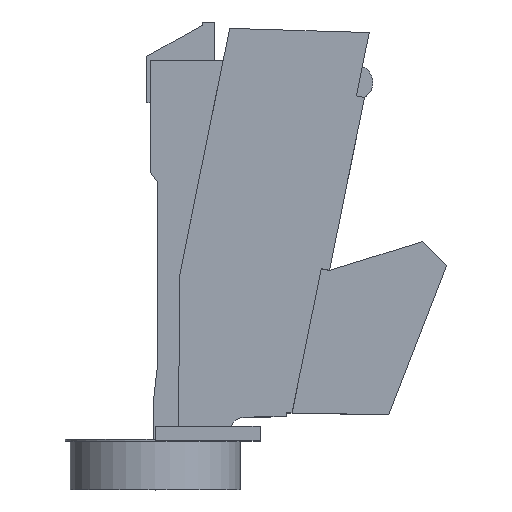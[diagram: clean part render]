
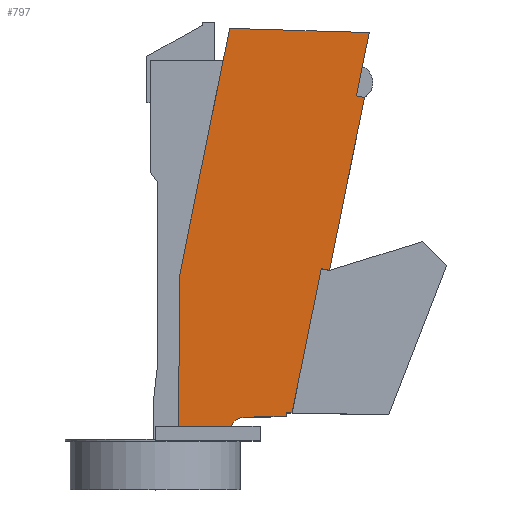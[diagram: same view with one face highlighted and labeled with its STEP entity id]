
A CAD part, top view. The second image highlights one B-rep face of the part: STEP entity #797.
In plain terms, the highlighted planar face has unit normal (0, 0, 1).
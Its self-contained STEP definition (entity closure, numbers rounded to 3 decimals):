
#191 = ORIENTED_EDGE ( 'NONE', *, *, #1035, .T. ) ;
#192 = ORIENTED_EDGE ( 'NONE', *, *, #1017, .T. ) ;
#201 = ORIENTED_EDGE ( 'NONE', *, *, #1026, .T. ) ;
#208 = ORIENTED_EDGE ( 'NONE', *, *, #1030, .T. ) ;
#209 = ORIENTED_EDGE ( 'NONE', *, *, #1032, .T. ) ;
#285 = ORIENTED_EDGE ( 'NONE', *, *, #1036, .T. ) ;
#286 = ORIENTED_EDGE ( 'NONE', *, *, #1041, .T. ) ;
#295 = ORIENTED_EDGE ( 'NONE', *, *, #1084, .T. ) ;
#300 = ORIENTED_EDGE ( 'NONE', *, *, #1047, .T. ) ;
#301 = ORIENTED_EDGE ( 'NONE', *, *, #1028, .T. ) ;
#302 = ORIENTED_EDGE ( 'NONE', *, *, #1113, .T. ) ;
#303 = ORIENTED_EDGE ( 'NONE', *, *, #1038, .F. ) ;
#304 = ORIENTED_EDGE ( 'NONE', *, *, #1100, .F. ) ;
#370 = EDGE_LOOP ( 'NONE', ( #209, #208, #192, #191, #201, #295, #285, #286, #304, #303, #302, #301, #300 ) ) ;
#422 = FACE_OUTER_BOUND ( 'NONE', #370, .T. ) ;
#510 = LINE ( 'NONE', #1152, #518 ) ;
#512 = LINE ( 'NONE', #1157, #532 ) ;
#513 = CIRCLE ( 'NONE', #978, 3. ) ;
#518 = VECTOR ( 'NONE', #1159, 1000. ) ;
#520 = LINE ( 'NONE', #1161, #521 ) ;
#521 = VECTOR ( 'NONE', #1163, 1000. ) ;
#522 = LINE ( 'NONE', #1166, #523 ) ;
#523 = VECTOR ( 'NONE', #1167, 1000. ) ;
#524 = LINE ( 'NONE', #1170, #525 ) ;
#525 = VECTOR ( 'NONE', #1171, 1000. ) ;
#526 = LINE ( 'NONE', #1174, #527 ) ;
#527 = VECTOR ( 'NONE', #1176, 1000. ) ;
#528 = LINE ( 'NONE', #1178, #529 ) ;
#529 = VECTOR ( 'NONE', #1180, 1000. ) ;
#530 = LINE ( 'NONE', #1182, #531 ) ;
#531 = VECTOR ( 'NONE', #1184, 1000. ) ;
#532 = VECTOR ( 'NONE', #1188, 1000. ) ;
#538 = LINE ( 'NONE', #1199, #539 ) ;
#539 = VECTOR ( 'NONE', #1200, 1000. ) ;
#569 = LINE ( 'NONE', #1274, #575 ) ;
#575 = VECTOR ( 'NONE', #1282, 1000. ) ;
#585 = LINE ( 'NONE', #1313, #588 ) ;
#588 = VECTOR ( 'NONE', #1319, 1000. ) ;
#589 = LINE ( 'NONE', #1342, #602 ) ;
#602 = VECTOR ( 'NONE', #1349, 1000. ) ;
#797 = ADVANCED_FACE ( 'NONE', ( #422 ), #1871, .F. ) ;
#978 = AXIS2_PLACEMENT_3D ( 'NONE', #1137, #1139, #1141 ) ;
#1017 = EDGE_CURVE ( 'NONE', #1810, #1781, #513, .T. ) ;
#1026 = EDGE_CURVE ( 'NONE', #1809, #1799, #510, .T. ) ;
#1028 = EDGE_CURVE ( 'NONE', #1817, #1803, #520, .T. ) ;
#1030 = EDGE_CURVE ( 'NONE', #1785, #1810, #522, .T. ) ;
#1032 = EDGE_CURVE ( 'NONE', #1788, #1785, #524, .T. ) ;
#1035 = EDGE_CURVE ( 'NONE', #1781, #1809, #526, .T. ) ;
#1036 = EDGE_CURVE ( 'NONE', #1833, #1792, #528, .T. ) ;
#1038 = EDGE_CURVE ( 'NONE', #1823, #1832, #530, .T. ) ;
#1041 = EDGE_CURVE ( 'NONE', #1792, #1841, #512, .T. ) ;
#1047 = EDGE_CURVE ( 'NONE', #1803, #1788, #538, .T. ) ;
#1084 = EDGE_CURVE ( 'NONE', #1799, #1833, #569, .T. ) ;
#1100 = EDGE_CURVE ( 'NONE', #1832, #1841, #585, .T. ) ;
#1113 = EDGE_CURVE ( 'NONE', #1823, #1817, #589, .T. ) ;
#1137 = CARTESIAN_POINT ( 'NONE',  ( 23.835, 1.92, 12.1 ) ) ;
#1139 = DIRECTION ( 'NONE',  ( 0., 0., -1. ) ) ;
#1141 = DIRECTION ( 'NONE',  ( -1., 0., 0. ) ) ;
#1152 = CARTESIAN_POINT ( 'NONE',  ( 32.38, 5.02, 12.1 ) ) ;
#1157 = CARTESIAN_POINT ( 'NONE',  ( 3.759, 42.665, 12.1 ) ) ;
#1159 = DIRECTION ( 'NONE',  ( 0., 1., 0. ) ) ;
#1161 = CARTESIAN_POINT ( 'NONE',  ( 49.433, 83.91, 12.1 ) ) ;
#1163 = DIRECTION ( 'NONE',  ( -1., 0.03, 0. ) ) ;
#1166 = CARTESIAN_POINT ( 'NONE',  ( 23.835, 3., 12.1 ) ) ;
#1167 = DIRECTION ( 'NONE',  ( 1., 0., 0. ) ) ;
#1170 = CARTESIAN_POINT ( 'NONE',  ( 10.52, 34.28, 12.1 ) ) ;
#1171 = DIRECTION ( 'NONE',  ( -0.009, -1., 0. ) ) ;
#1174 = CARTESIAN_POINT ( 'NONE',  ( 23.8, 4.92, 12.1 ) ) ;
#1176 = DIRECTION ( 'NONE',  ( 1., 0.012, 0. ) ) ;
#1178 = CARTESIAN_POINT ( 'NONE',  ( 48.023, 76.962, 12.1 ) ) ;
#1180 = DIRECTION ( 'NONE',  ( 0.199, 0.98, 0. ) ) ;
#1182 = CARTESIAN_POINT ( 'NONE',  ( 10.961, 78.159, 12.1 ) ) ;
#1184 = DIRECTION ( 'NONE',  ( 0.98, -0.199, 0. ) ) ;
#1188 = DIRECTION ( 'NONE',  ( 0.98, -0.199, 0. ) ) ;
#1199 = CARTESIAN_POINT ( 'NONE',  ( 20.765, 84.771, 12.1 ) ) ;
#1200 = DIRECTION ( 'NONE',  ( -0.199, -0.98, 0. ) ) ;
#1274 = CARTESIAN_POINT ( 'NONE',  ( 32.38, 5.786, 12.1 ) ) ;
#1282 = DIRECTION ( 'NONE',  ( 1., -0.017, 0. ) ) ;
#1313 = CARTESIAN_POINT ( 'NONE',  ( 41.255, 35.057, 12.1 ) ) ;
#1319 = DIRECTION ( 'NONE',  ( -0.199, -0.98, 0. ) ) ;
#1321 = AXIS2_PLACEMENT_3D ( 'NONE', #1874, #1883, #1884 ) ;
#1342 = CARTESIAN_POINT ( 'NONE',  ( 48.023, 76.962, 12.1 ) ) ;
#1349 = DIRECTION ( 'NONE',  ( 0.199, 0.98, 0. ) ) ;
#1650 = CARTESIAN_POINT ( 'NONE',  ( 23.8, 4.92, 12.1 ) ) ;
#1654 = CARTESIAN_POINT ( 'NONE',  ( 10.242, 3., 12.1 ) ) ;
#1657 = CARTESIAN_POINT ( 'NONE',  ( 10.52, 34.28, 12.1 ) ) ;
#1661 = CARTESIAN_POINT ( 'NONE',  ( 39.589, 35.395, 12.1 ) ) ;
#1668 = CARTESIAN_POINT ( 'NONE',  ( 32.38, 5.786, 12.1 ) ) ;
#1672 = CARTESIAN_POINT ( 'NONE',  ( 20.765, 84.771, 12.1 ) ) ;
#1678 = CARTESIAN_POINT ( 'NONE',  ( 32.38, 5.02, 12.1 ) ) ;
#1679 = CARTESIAN_POINT ( 'NONE',  ( 21.036, 3., 12.1 ) ) ;
#1686 = CARTESIAN_POINT ( 'NONE',  ( 49.433, 83.91, 12.1 ) ) ;
#1692 = CARTESIAN_POINT ( 'NONE',  ( 46.791, 70.889, 12.1 ) ) ;
#1701 = CARTESIAN_POINT ( 'NONE',  ( 48.457, 70.551, 12.1 ) ) ;
#1702 = CARTESIAN_POINT ( 'NONE',  ( 33.577, 5.765, 12.1 ) ) ;
#1710 = CARTESIAN_POINT ( 'NONE',  ( 41.255, 35.057, 12.1 ) ) ;
#1781 = VERTEX_POINT ( 'NONE', #1650 ) ;
#1785 = VERTEX_POINT ( 'NONE', #1654 ) ;
#1788 = VERTEX_POINT ( 'NONE', #1657 ) ;
#1792 = VERTEX_POINT ( 'NONE', #1661 ) ;
#1799 = VERTEX_POINT ( 'NONE', #1668 ) ;
#1803 = VERTEX_POINT ( 'NONE', #1672 ) ;
#1809 = VERTEX_POINT ( 'NONE', #1678 ) ;
#1810 = VERTEX_POINT ( 'NONE', #1679 ) ;
#1817 = VERTEX_POINT ( 'NONE', #1686 ) ;
#1823 = VERTEX_POINT ( 'NONE', #1692 ) ;
#1832 = VERTEX_POINT ( 'NONE', #1701 ) ;
#1833 = VERTEX_POINT ( 'NONE', #1702 ) ;
#1841 = VERTEX_POINT ( 'NONE', #1710 ) ;
#1871 = PLANE ( 'NONE',  #1321 ) ;
#1874 = CARTESIAN_POINT ( 'NONE',  ( 23.835, 1.92, 12.1 ) ) ;
#1883 = DIRECTION ( 'NONE',  ( 0., 0., -1. ) ) ;
#1884 = DIRECTION ( 'NONE',  ( -1., 0., 0. ) ) ;
